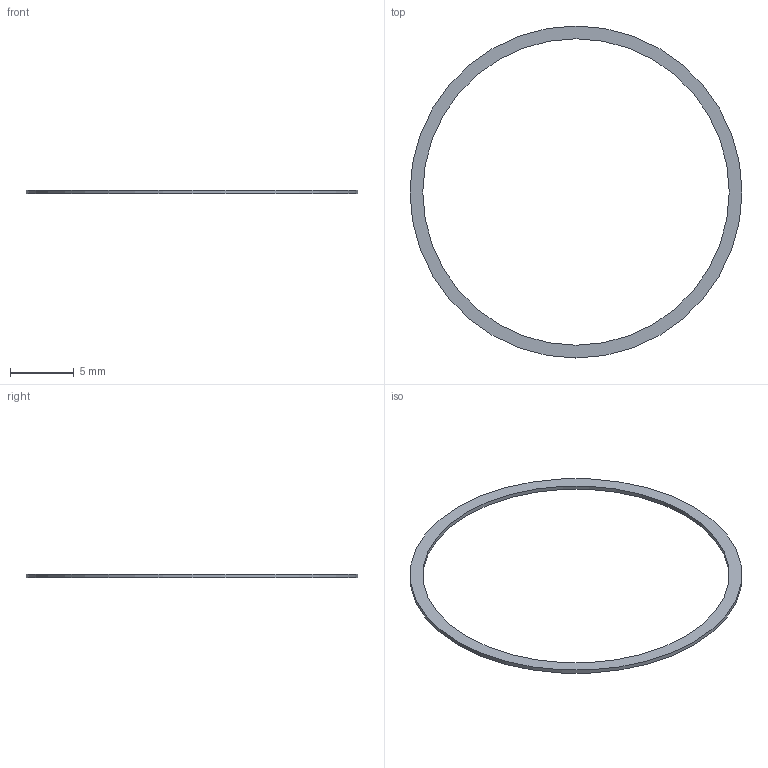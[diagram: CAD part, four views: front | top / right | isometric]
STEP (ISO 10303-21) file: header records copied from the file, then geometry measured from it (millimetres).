
FILE_DESCRIPTION(('FreeCAD Model'),'2;1');
FILE_NAME('Open CASCADE Shape Model','2026-09-05T20:39:50',('FreeCAD'),( 'FreeCAD'),'Open CASCADE STEP processor 7.8','FreeCAD','Unknown');
FILE_SCHEMA(('AUTOMOTIVE_DESIGN { 1 0 10303 214 1 1 1 1 }'));
Length unit declared in the file: millimetre
Products named in the file (1): Open CASCADE STEP translator 7.8 7
Bounding box: 26 x 26 x 0.3 mm (x, y, z)
Volume: 23.6 mm3; surface area: 204.2 mm2
Topology: 1 solids, 1 shells, 4 faces, 6 edges, 4 vertices
Faces by surface type: cylinder 2, plane 2
Full cylindrical faces by diameter (mm): 24 x1, 26 x1
Entity records: 108 total; most frequent: DIRECTION 20, CARTESIAN_POINT 15, ORIENTED_EDGE 12, AXIS2_PLACEMENT_3D 9, FACE_BOUND 6, EDGE_LOOP 6, EDGE_CURVE 6, ADVANCED_FACE 4
